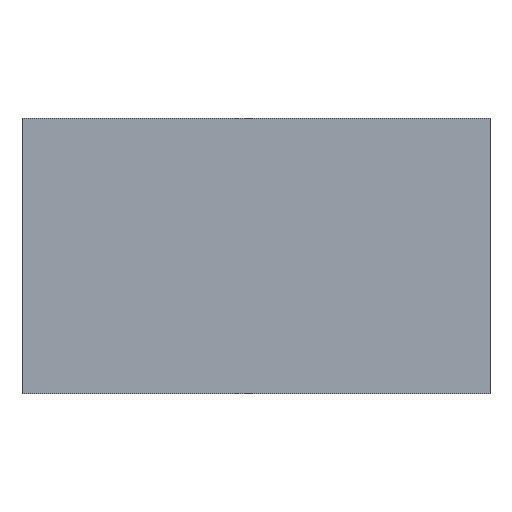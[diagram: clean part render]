
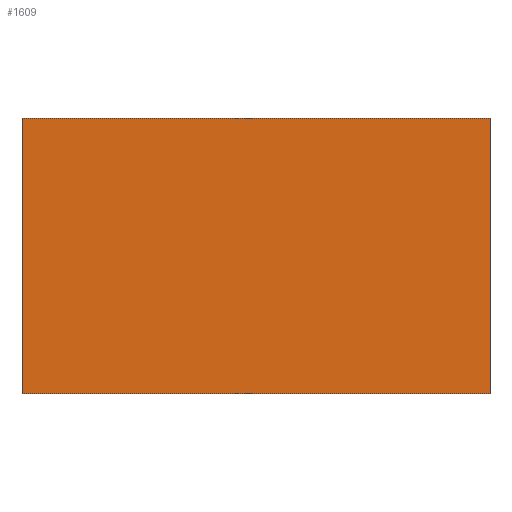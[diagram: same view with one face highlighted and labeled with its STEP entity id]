
A CAD part, left-side view. The second image highlights one B-rep face of the part: STEP entity #1609.
In plain terms, the highlighted planar face has unit normal (-1, 0, 0).
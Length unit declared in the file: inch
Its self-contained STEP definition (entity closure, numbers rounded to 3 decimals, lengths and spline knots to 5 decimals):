
#246=FACE_OUTER_BOUND('',#342,.T.);
#342=EDGE_LOOP('',(#1469,#1470,#1471,#1472));
#466=LINE('',#2913,#608);
#482=LINE('',#3083,#624);
#487=LINE('',#3092,#629);
#488=LINE('',#3093,#630);
#608=VECTOR('',#1890,0.3937);
#624=VECTOR('',#1978,0.3937);
#629=VECTOR('',#1989,0.3937);
#630=VECTOR('',#1990,0.3937);
#751=VERTEX_POINT('',#2906);
#754=VERTEX_POINT('',#2911);
#782=VERTEX_POINT('',#3079);
#784=VERTEX_POINT('',#3082);
#969=EDGE_CURVE('',#751,#754,#466,.T.);
#1012=EDGE_CURVE('',#782,#784,#482,.T.);
#1017=EDGE_CURVE('',#782,#751,#487,.T.);
#1018=EDGE_CURVE('',#784,#754,#488,.T.);
#1469=ORIENTED_EDGE('',*,*,#1017,.T.);
#1470=ORIENTED_EDGE('',*,*,#969,.T.);
#1471=ORIENTED_EDGE('',*,*,#1018,.F.);
#1472=ORIENTED_EDGE('',*,*,#1012,.F.);
#1523=PLANE('',#1698);
#1609=ADVANCED_FACE('',(#246),#1523,.T.);
#1698=AXIS2_PLACEMENT_3D('',#3091,#1987,#1988);
#1890=DIRECTION('',(0.,1.,0.));
#1978=DIRECTION('',(0.,1.,0.));
#1987=DIRECTION('center_axis',(-1.,0.,0.));
#1988=DIRECTION('ref_axis',(0.,0.,1.));
#1989=DIRECTION('',(0.,0.,1.));
#1990=DIRECTION('',(0.,0.,1.));
#2906=CARTESIAN_POINT('',(0.,0.,0.787));
#2911=CARTESIAN_POINT('',(0.,1.338,0.787));
#2913=CARTESIAN_POINT('',(0.,0.,0.787));
#3079=CARTESIAN_POINT('',(0.,0.,0.));
#3082=CARTESIAN_POINT('',(0.,1.338,0.));
#3083=CARTESIAN_POINT('',(0.,0.,0.));
#3091=CARTESIAN_POINT('Origin',(0.,0.,0.));
#3092=CARTESIAN_POINT('',(0.,0.,0.));
#3093=CARTESIAN_POINT('',(0.,1.338,0.));
